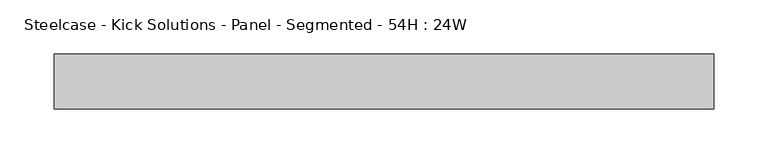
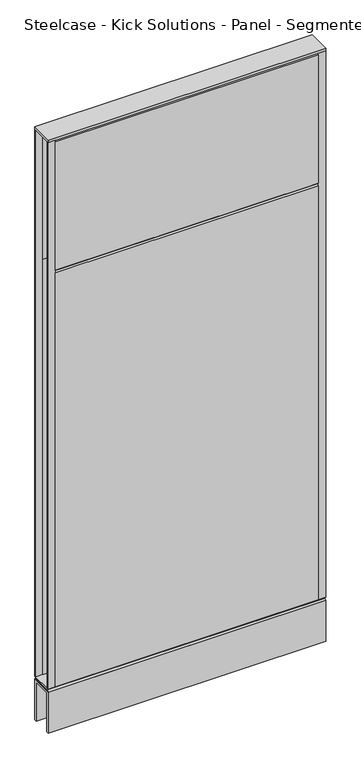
"""IFC4 building model written with IfcOpenShell, lengths in millimetres: furniture geometry, Steelcase - Kick Solutions - Panel - Segmented - 54H : 24W."""

import ifcopenshell
import ifcopenshell.guid

model = None  # the IFC model being written
_history = None  # IfcOwnerHistory: only IFC2X3 demands one
_inside = {}  # id of a spatial element -> (the spatial element, [elements in it])
_under = {}  # id of a project, library or spatial element -> (it, [spatial elements below it])
_declared = {}  # id of a project -> (the project, [libraries it declares])
_typed = {}  # id of a type object -> (the type object, [elements of that type])
_made_of = {}  # id of a material, layer set ... -> (it, [elements and type objects made of it])


def new_model(schema):
    """Start an empty IFC model of exactly this schema.

    Asked for "IFC4X3", IfcOpenShell would pick the latest addendum, in which some entities
    have other attributes; the version numbers below select the first issue.
    IFC2X3 requires an IfcOwnerHistory on every rooted entity: one is made here for all.
    """
    global model, _history
    if schema == "IFC4X3":
        model = ifcopenshell.file(schema_version=(4, 3, 0, 0))
    else:
        model = ifcopenshell.file(schema=schema)
    _inside.clear()
    _under.clear()
    _declared.clear()
    _typed.clear()
    _made_of.clear()
    _history = None
    if model.schema == "IFC2X3":
        org = make("IfcOrganization", Name="unknown")
        user = make(
            "IfcPersonAndOrganization",
            ThePerson=make("IfcPerson", FamilyName="unknown"),
            TheOrganization=org,
        )
        app = make(
            "IfcApplication",
            ApplicationDeveloper=org,
            Version="unknown",
            ApplicationFullName="unknown",
            ApplicationIdentifier="unknown",
        )
        _history = make(
            "IfcOwnerHistory",
            OwningUser=user,
            OwningApplication=app,
            ChangeAction="ADDED",
            CreationDate=0,
        )
    return model


def make(cls, **values):
    """One entity of the class cls with the attributes given. An attribute that is None is left unset."""
    return model.create_entity(
        cls, **{name: value for name, value in values.items() if value is not None}
    )


def rooted(cls, **values):
    """An entity with a GlobalId (a new one), such as an element, a storey or a relation."""
    return make(cls, GlobalId=ifcopenshell.guid.new(), OwnerHistory=_history, **values)


def si_unit(unit_type, name, prefix=None):
    """IfcSIUnit, for example si_unit("LENGTHUNIT", "METRE", prefix="MILLI")."""
    return make("IfcSIUnit", UnitType=unit_type, Prefix=prefix, Name=name)


def assignment(units):
    """IfcUnitAssignment: the units of a project."""
    return None if units is None else make("IfcUnitAssignment", Units=units)


def point(xyz):
    """IfcCartesianPoint."""
    return None if xyz is None else make("IfcCartesianPoint", Coordinates=xyz)


def direction(xyz):
    """IfcDirection."""
    return None if xyz is None else make("IfcDirection", DirectionRatios=xyz)


def frame(location, z_axis=None, x_axis=None):
    """IfcAxis2Placement3D, a coordinate frame: its origin and axes. An axis left out is left unset."""
    return make(
        "IfcAxis2Placement3D",
        Location=point(location),
        Axis=direction(z_axis),
        RefDirection=direction(x_axis),
    )


def origin():
    """The frame at (0, 0, 0) with its axes left unset."""
    return frame((0.0, 0.0, 0.0))


def place(relative_to, where):
    """IfcLocalPlacement: puts the frame where relative to a parent placement (None: the world)."""
    return make(
        "IfcLocalPlacement", PlacementRelTo=relative_to, RelativePlacement=where
    )


def context(
    kind, dimensions, precision=None, world=None, true_north=None, identifier=None
):
    """IfcGeometricRepresentationContext, for example the 3D "Model" context."""
    return make(
        "IfcGeometricRepresentationContext",
        ContextIdentifier=identifier,
        ContextType=kind,
        CoordinateSpaceDimension=dimensions,
        Precision=precision,
        WorldCoordinateSystem=world,
        TrueNorth=true_north,
    )


def project(units=None, contexts=None):
    """IfcProject with its units and contexts."""
    return rooted(
        "IfcProject",
        Name="project",
        RepresentationContexts=contexts,
        UnitsInContext=assignment(units),
    )


def spatial(cls, under=None, at=None, **own):
    """A site, building, storey or space (cls), placed at a placement, below another one or the project."""
    s = rooted(cls, ObjectPlacement=at, **own)
    if under is not None:
        _under.setdefault(under.id(), (under, []))[1].append(s)
    return s


def polyline(points):
    """IfcPolyline through the points."""
    return make("IfcPolyline", Points=[point(p) for p in points])


def outline(outer, holes=None, kind="AREA"):
    """IfcArbitraryClosedProfileDef: a profile drawn as a closed curve; with holes, ...WithVoids."""
    if holes is None:
        return make("IfcArbitraryClosedProfileDef", ProfileType=kind, OuterCurve=outer)
    return make(
        "IfcArbitraryProfileDefWithVoids",
        ProfileType=kind,
        OuterCurve=outer,
        InnerCurves=holes,
    )


def extrude(swept, where, along, depth):
    """IfcExtrudedAreaSolid: the profile swept, set in the frame where, extruded along a direction by depth."""
    return make(
        "IfcExtrudedAreaSolid",
        SweptArea=swept,
        Position=where,
        ExtrudedDirection=direction(along),
        Depth=depth,
    )


def shape(context_of_items, identifier, shape_type, items):
    """IfcShapeRepresentation: the items that make up one representation, for example the "Body"."""
    return make(
        "IfcShapeRepresentation",
        ContextOfItems=context_of_items,
        RepresentationIdentifier=identifier,
        RepresentationType=shape_type,
        Items=items,
    )


def source(mapping_origin, context_of_items, identifier, shape_type, items):
    """IfcRepresentationMap: a shape defined once, which mapped items show again and again."""
    return make(
        "IfcRepresentationMap",
        MappingOrigin=mapping_origin,
        MappedRepresentation=shape(context_of_items, identifier, shape_type, items),
    )


def transform(
    local_origin,
    x_axis=None,
    y_axis=None,
    z_axis=None,
    scale=None,
    scale2=None,
    scale3=None,
    uniform=True,
):
    """IfcCartesianTransformationOperator3D, or its non-uniform kind. x_axis, y_axis, z_axis: its Axis1, 2, 3."""
    if uniform:
        return make(
            "IfcCartesianTransformationOperator3D",
            Axis1=direction(x_axis),
            Axis2=direction(y_axis),
            LocalOrigin=point(local_origin),
            Scale=scale,
            Axis3=direction(z_axis),
        )
    return make(
        "IfcCartesianTransformationOperator3DnonUniform",
        Axis1=direction(x_axis),
        Axis2=direction(y_axis),
        LocalOrigin=point(local_origin),
        Scale=scale,
        Axis3=direction(z_axis),
        Scale2=scale2,
        Scale3=scale3,
    )


def mapped(mapping_source, mapping_target):
    """IfcMappedItem: shows the shape of a source again, moved by a transform."""
    return make(
        "IfcMappedItem", MappingSource=mapping_source, MappingTarget=mapping_target
    )


def made_of(thing, what):
    """Note that an element or type object is made of a material, layer set ...; save() writes the relation."""
    if what is not None:
        _made_of.setdefault(what.id(), (what, []))[1].append(thing)
    return thing


def element(
    cls,
    number,
    at=None,
    inside=None,
    cuts=None,
    type_object=None,
    material=None,
    context=None,
    identifier="Body",
    shape_type=None,
    held_by="IfcProductDefinitionShape",
    body=None,
    shapes=None,
    **own,
):
    """One element of the class cls, such as IfcWall. Its Tag is "e" and its number.

    at: its placement. inside: the storey or other place that contains it. cuts: it is an
    opening in that element (IfcRelVoidsElement). A single representation is given by context,
    identifier, shape_type and body (its items); several are given by shapes. held_by: the class
    of the entity that holds the representations. save() writes the other relations.
    """
    e = rooted(cls, Tag="e%d" % number, ObjectPlacement=at, **own)
    if body is not None:
        shapes = [shape(context, identifier, shape_type, body)]
    if shapes is not None:
        e.Representation = make(held_by, Representations=shapes)
    if inside is not None:
        _inside.setdefault(inside.id(), (inside, []))[1].append(e)
    if cuts is not None:
        rooted(
            "IfcRelVoidsElement", RelatingBuildingElement=cuts, RelatedOpeningElement=e
        )
    if type_object is not None:
        _typed.setdefault(type_object.id(), (type_object, []))[1].append(e)
    return made_of(e, material)


def aggregate(whole, parts):
    """IfcRelAggregates: a whole, such as a stair, and the parts it consists of."""
    return rooted("IfcRelAggregates", RelatingObject=whole, RelatedObjects=parts)


def save(model, path):
    """Write the relations noted so far, then the file.

    IfcRelAggregates (storeys below a building ...), IfcRelContainedInSpatialStructure (elements
    in a storey), IfcRelDefinesByType, IfcRelAssociatesMaterial and IfcRelDeclares: one each for
    every whole, place, type object, material and project.
    """
    for whole, parts in _under.values():
        aggregate(whole, parts)
    for where, things in _inside.values():
        rooted(
            "IfcRelContainedInSpatialStructure",
            RelatedElements=things,
            RelatingStructure=where,
        )
    for kind, things in _typed.values():
        rooted("IfcRelDefinesByType", RelatedObjects=things, RelatingType=kind)
    for what, things in _made_of.values():
        rooted("IfcRelAssociatesMaterial", RelatedObjects=things, RelatingMaterial=what)
    for by, libraries in _declared.values():
        rooted("IfcRelDeclares", RelatingContext=by, RelatedDefinitions=libraries)
    model.write(path)


def steelcase_kick_solutions_panel_segmented_54h_24w_05c37fab(model_context):
    return source(origin(), model_context, "Body", "SweptSolid", [
        extrude(outline(polyline([(1.5e-06, 1069.8811552), (-3.175, 1066.8), (-3.175, 1371.6), (1.5e-06, 1368.5188448), (1.5e-06, 1069.8811552)])), frame((15.8749996, 0.0, 0.0), z_axis=(1.0, 0.0, 0.0), x_axis=(0.0, 1.0, 0.0)), (0.0, 0.0, 1.0), 577.8500008),
        extrude(outline(polyline([(1.5e-06, 101.600003), (-3.175, 101.600003), (-3.175, 1066.8), (1.5e-06, 1063.7188448), (1.5e-06, 101.600003)])), frame((15.8749996, 0.0, 0.0), z_axis=(1.0, 0.0, 0.0), x_axis=(0.0, 1.0, 0.0)), (0.0, 0.0, 1.0), 577.8500008),
        extrude(outline(polyline([(-50.8000015, 1069.8811552), (-50.8000015, 1368.5188448), (-47.625, 1371.6), (-47.625, 1066.8), (-50.8000015, 1069.8811552)])), frame((15.8749996, 0.0, 0.0), z_axis=(1.0, 0.0, 0.0), x_axis=(0.0, 1.0, 0.0)), (0.0, 0.0, 1.0), 577.8500008),
        extrude(outline(polyline([(-50.8000015, 101.600003), (-50.8000015, 1063.7188448), (-47.625, 1066.8), (-47.625, 101.600003), (-50.8000015, 101.600003)])), frame((15.8749996, 0.0, 0.0), z_axis=(1.0, 0.0, 0.0), x_axis=(0.0, 1.0, 0.0)), (0.0, 0.0, 1.0), 577.8500008),
        extrude(outline(polyline([(609.6, -3.1750015), (593.7250004, -3.1750015), (593.7250004, 0.0), (609.6, 0.0), (609.6, -3.1750015)])), frame((0.0, 0.0, 101.7169049), z_axis=(0.0, 0.0, 1.0), x_axis=(1.0, 0.0, 0.0)), (0.0, 0.0, 1.0), 1269.999997),
        extrude(outline(polyline([(15.8749996, -50.8000015), (0.0, -50.8000015), (0.0, -47.625), (15.8749996, -47.625), (15.8749996, -50.8000015)])), frame((0.0, 0.0, 101.7169049), z_axis=(0.0, 0.0, 1.0), x_axis=(1.0, 0.0, 0.0)), (0.0, 0.0, 1.0), 1269.999997),
        extrude(outline(polyline([(-50.7995075, 101.7169049), (-0.000494, 101.7169049), (-3.0583512, 98.5421458), (-47.7416503, 98.5421458), (-50.7995075, 101.7169049)])), frame((0.0, 0.0, 0.0), z_axis=(1.0, 0.0, 0.0), x_axis=(0.0, 1.0, 0.0)), (0.0, 0.0, 1.0), 609.6),
        extrude(outline(polyline([(609.6, 0.0), (609.6, -50.8000015), (0.0, -50.8000015), (0.0, 0.0), (609.6, 0.0)])), frame((0.0, 0.0, 1371.7169018), z_axis=(0.0, 0.0, 1.0), x_axis=(1.0, 0.0, 0.0)), (0.0, 0.0, 1.0), 6.35),
        extrude(outline(polyline([(15.8749996, -3.1750015), (0.0, -3.1750015), (0.0, 0.0), (15.8749996, 0.0), (15.8749996, -3.1750015)])), frame((0.0, 0.0, 101.7169049), z_axis=(0.0, 0.0, 1.0), x_axis=(1.0, 0.0, 0.0)), (0.0, 0.0, 1.0), 1269.999997),
        extrude(outline(polyline([(609.6, -50.8000015), (593.7250004, -50.8000015), (593.7250004, -47.625), (609.6, -47.625), (609.6, -50.8000015)])), frame((0.0, 0.0, 101.7169049), z_axis=(0.0, 0.0, 1.0), x_axis=(1.0, 0.0, 0.0)), (0.0, 0.0, 1.0), 1269.999997),
        extrude(outline(polyline([(-50.8000015, 95.3668927), (-47.6247484, 98.5421458), (-3.1752531, 98.5421458), (0.0, 95.3668927), (-50.8000015, 95.3668927)])), frame((0.0, 0.0, 0.0), z_axis=(1.0, 0.0, 0.0), x_axis=(0.0, 1.0, 0.0)), (0.0, 0.0, 1.0), 609.6),
        extrude(outline(polyline([(0.0, 0.0), (-5.08, 0.0), (-5.08, 90.2869018), (-45.7200015, 90.2869018), (-45.7200015, 0.0), (-50.8000015, 0.0), (-50.8000015, 95.3669018), (0.0, 95.3669018), (0.0, 0.0)])), frame((0.0, 0.0, 0.0), z_axis=(1.0, 0.0, 0.0), x_axis=(0.0, 1.0, 0.0)), (0.0, 0.0, 1.0), 609.6),
    ])


if __name__ == "__main__":
    model = new_model("IFC4")
    model_context = context("Model", 3, world=origin())
    ifc_project = project(units=[si_unit("LENGTHUNIT", "METRE", prefix="MILLI")], contexts=[model_context])
    site = spatial("IfcSite", under=ifc_project)
    building = spatial("IfcBuilding", under=site)
    placement = place(None, origin())
    steelcase_kick_solutions_panel_segmented_54h_24w_shape = steelcase_kick_solutions_panel_segmented_54h_24w_05c37fab(model_context)
    element("IfcFurniture", 1, ObjectType="Steelcase - Kick Solutions - Panel - Segmented - 54H : 24W", at=placement, inside=building, context=model_context, shape_type="MappedRepresentation", body=[
        mapped(steelcase_kick_solutions_panel_segmented_54h_24w_shape, transform((0.0, 0.0, 0.0), x_axis=(1.0, 0.0, 0.0), y_axis=(0.0, 1.0, 0.0), z_axis=(0.0, 0.0, 1.0))),
    ])
    save(model, "model.ifc")
